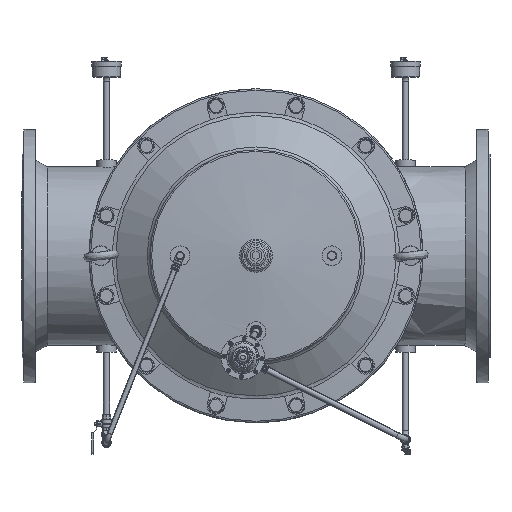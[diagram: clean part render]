
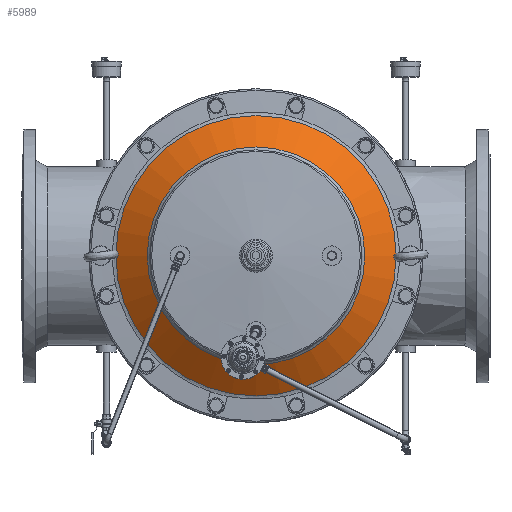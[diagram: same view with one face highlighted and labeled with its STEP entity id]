
A CAD part, top view. The second image highlights one B-rep face of the part: STEP entity #5989.
In plain terms, the highlighted conical face has half-angle 55.178 degrees and reference radius 226.052 mm.
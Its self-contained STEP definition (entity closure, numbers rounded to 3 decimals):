
#5989=ADVANCED_FACE('',(#19605,#19607),#19609,.T.);
#19605=FACE_OUTER_BOUND('',#19606,.T.);
#19606=EDGE_LOOP('',(#43966));
#19607=FACE_OUTER_BOUND('',#19608,.T.);
#19608=EDGE_LOOP('',(#43967));
#19609=CONICAL_SURFACE('',#19610,226.052,0.963);
#19610=AXIS2_PLACEMENT_3D('',#19611,#19612,#19613);
#19611=CARTESIAN_POINT('',(0.,-38.014,0.));
#19612=DIRECTION('',(0.,1.,0.));
#19613=DIRECTION('',(-1.,0.,0.));
#43966=ORIENTED_EDGE('',*,*,#51061,.F.);
#43967=ORIENTED_EDGE('',*,*,#51043,.F.);
#51043=EDGE_CURVE('',#56235,#56235,#56236,.T.);
#51061=EDGE_CURVE('',#56271,#56271,#56272,.F.);
#56235=VERTEX_POINT('',#83969);
#56236=CIRCLE('',#83970,197.505);
#56271=VERTEX_POINT('',#84059);
#56272=CIRCLE('',#84060,254.6);
#83969=CARTESIAN_POINT('',(197.505,-57.871,0.));
#83970=AXIS2_PLACEMENT_3D('',#83971,#83972,#83973);
#83971=CARTESIAN_POINT('',(0.,-57.871,0.));
#83972=DIRECTION('',(0.,-1.,0.));
#83973=DIRECTION('',(1.,0.,0.));
#84059=CARTESIAN_POINT('',(254.6,-18.157,0.));
#84060=AXIS2_PLACEMENT_3D('',#84061,#84062,#84063);
#84061=CARTESIAN_POINT('',(0.,-18.157,0.));
#84062=DIRECTION('',(0.,-1.,0.));
#84063=DIRECTION('',(1.,0.,0.));
